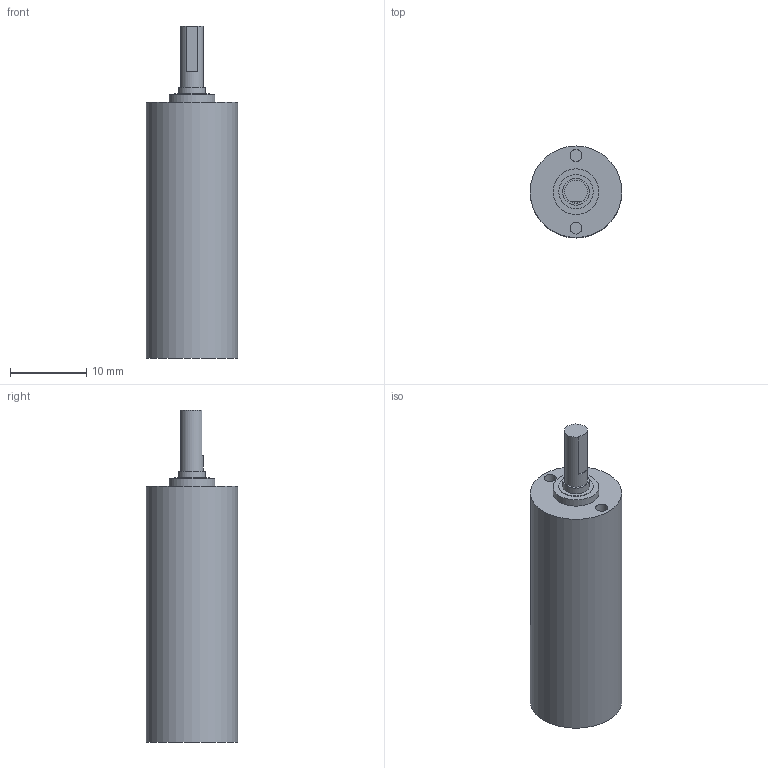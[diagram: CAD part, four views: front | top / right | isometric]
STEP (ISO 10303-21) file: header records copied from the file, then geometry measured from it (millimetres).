
FILE_DESCRIPTION((''),'2;1');
FILE_NAME('G:\Disegni\Progetti\D8500÷D8599\D8514\Riduttori\E - Riduttori STEP - SBZ\12_4K STEP\12_4K 5stage.stp','2012-05-24T16:01:58',('bonazzoli'),(''),'Autodesk Inventor 2012','Autodesk Inventor 2012','');
FILE_SCHEMA(('AUTOMOTIVE_DESIGN { 1 0 10303 214 1 1 1 1 }'));
Length unit declared in the file: millimetre
Products named in the file (1): 12_4K 5stage
Bounding box: 12 x 12 x 43.5 mm (x, y, z)
Volume: 3874.9 mm3; surface area: 1613.9 mm2
Topology: 1 solids, 1 shells, 17 faces, 27 edges, 18 vertices
Faces by surface type: plane 10, cylinder 7
Full cylindrical faces by diameter (mm): 1.567 x2, 3 x1, 3.5 x1, 4.5 x1, 6 x1, 12 x1
Entity records: 378 total; most frequent: DIRECTION 70, CARTESIAN_POINT 54, ORIENTED_EDGE 38, AXIS2_PLACEMENT_3D 33, EDGE_LOOP 30, EDGE_CURVE 19, VERTEX_POINT 17, FACE_OUTER_BOUND 17
